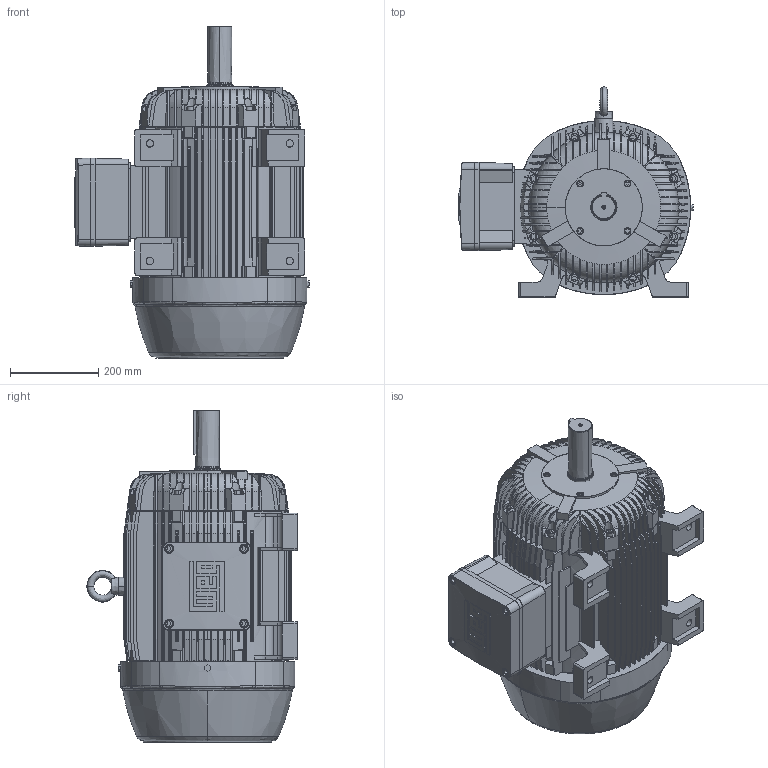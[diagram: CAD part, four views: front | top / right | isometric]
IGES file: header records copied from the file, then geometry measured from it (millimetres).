
Start section: SolidWorks IGES file using analytic representation for surfaces
Global section: file name: Y:\NEMA\EXPLOSION_PROOF_MOTOR\14_FRAME_324T\STANDARD\IGS\324T_LEFT.IGS; native system: SolidWorks 2009; preprocessor: SolidWorks 2009; author: jeyson; date: 110315.125433; units: millimetre
Bounding box: 532.2 x 477.19 x 753.54 mm (x, y, z)
Surface area: 3130435.2 mm2 (no closed solid volume)
Topology: 0 solids, 0 shells, 1900 faces, 23370 edges, 23323 vertices
Faces by surface type: bspline 1473, revolution 427
